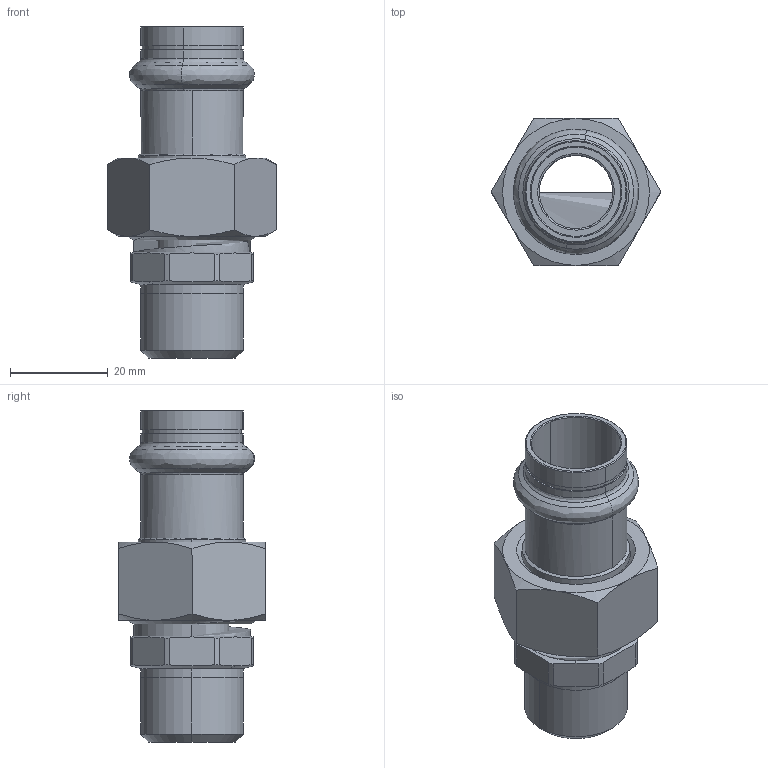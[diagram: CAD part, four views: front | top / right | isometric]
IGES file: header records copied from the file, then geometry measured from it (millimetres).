
Start section: Elysium IGES Interface
Global section: file name: F:\3d modellen sudo\S-Pr VP\SP6331GV\6331GVW1812.igs; native system: CoCreate Modeling 17.00A  17-Jun-2010; preprocessor: CoCreate IGES_3D V2.2; author: Unknown; organization: Unknown; date: 20130128.154447; units: millimetre
Bounding box: 34.64 x 30 x 67.8 mm (x, y, z)
Volume: 10034.6 mm3; surface area: 12678.8 mm2
Topology: 2 solids, 3 shells, 126 faces, 301 edges, 183 vertices
Faces by surface type: bspline 126
